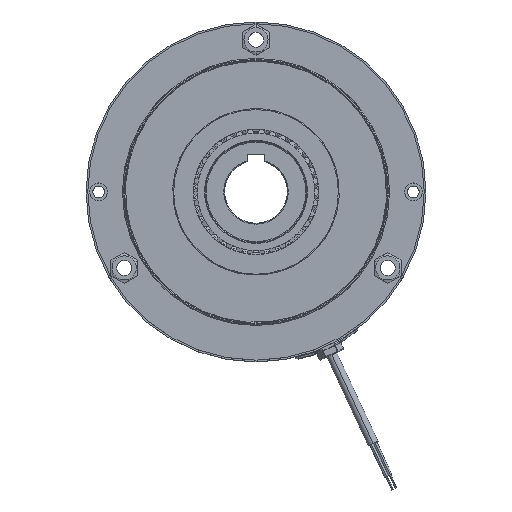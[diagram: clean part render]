
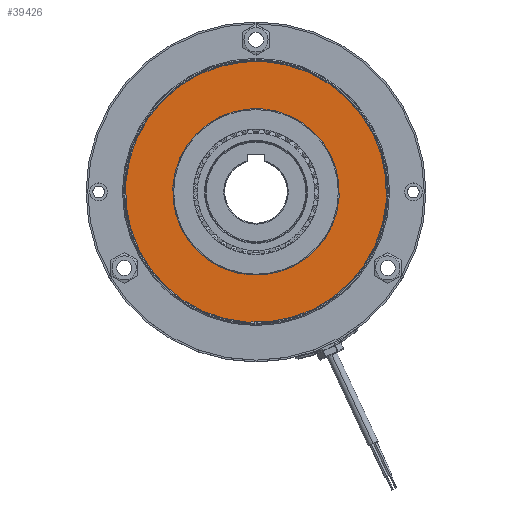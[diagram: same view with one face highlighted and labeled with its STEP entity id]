
A CAD part, top view. The second image highlights one B-rep face of the part: STEP entity #39426.
In plain terms, the highlighted planar face has unit normal (0, 0, 1).
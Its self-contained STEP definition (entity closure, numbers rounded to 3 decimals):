
#1051 = CARTESIAN_POINT ( 'NONE',  ( -31.916, 65.598, 2. ) ) ;
#2151 = AXIS2_PLACEMENT_3D ( 'NONE', #24613, #4973, #18994 ) ;
#2243 = EDGE_LOOP ( 'NONE', ( #38565, #21753 ) ) ;
#2482 = AXIS2_PLACEMENT_3D ( 'NONE', #37117, #20941, #34085 ) ;
#3139 = CARTESIAN_POINT ( 'NONE',  ( 0., 0., 2. ) ) ;
#3222 = VERTEX_POINT ( 'NONE', #38420 ) ;
#3873 = CIRCLE ( 'NONE', #2482, 46.55 ) ;
#4160 = CIRCLE ( 'NONE', #20717, 72.95 ) ;
#4973 = DIRECTION ( 'NONE',  ( 0., 0., -1. ) ) ;
#5610 = FACE_BOUND ( 'NONE', #39488, .T. ) ;
#6307 = AXIS2_PLACEMENT_3D ( 'NONE', #28653, #12193, #8972 ) ;
#8258 = CARTESIAN_POINT ( 'NONE',  ( 0., 0., 2. ) ) ;
#8972 = DIRECTION ( 'NONE',  ( 1., 0., 0. ) ) ;
#9652 = CARTESIAN_POINT ( 'NONE',  ( -20.366, 41.858, 2. ) ) ;
#11383 = CIRCLE ( 'NONE', #32749, 46.55 ) ;
#12193 = DIRECTION ( 'NONE',  ( 0., 0., 1. ) ) ;
#17789 = EDGE_CURVE ( 'NONE', #35445, #32709, #4160, .T. ) ;
#18187 = DIRECTION ( 'NONE',  ( 0., 0., 1. ) ) ;
#18348 = FACE_OUTER_BOUND ( 'NONE', #2243, .T. ) ;
#18994 = DIRECTION ( 'NONE',  ( -1., 0., 0. ) ) ;
#19671 = EDGE_CURVE ( 'NONE', #32709, #35445, #26344, .T. ) ;
#20717 = AXIS2_PLACEMENT_3D ( 'NONE', #8258, #18187, #23674 ) ;
#20941 = DIRECTION ( 'NONE',  ( 0., 0., 1. ) ) ;
#21753 = ORIENTED_EDGE ( 'NONE', *, *, #17789, .T. ) ;
#23674 = DIRECTION ( 'NONE',  ( 1., 0., 0. ) ) ;
#24613 = CARTESIAN_POINT ( 'NONE',  ( 0., 72.95, 2. ) ) ;
#26344 = CIRCLE ( 'NONE', #6307, 72.95 ) ;
#27799 = VERTEX_POINT ( 'NONE', #9652 ) ;
#28611 = EDGE_CURVE ( 'NONE', #27799, #3222, #3873, .T. ) ;
#28653 = CARTESIAN_POINT ( 'NONE',  ( 0., 0., 2. ) ) ;
#32136 = EDGE_CURVE ( 'NONE', #3222, #27799, #11383, .T. ) ;
#32303 = DIRECTION ( 'NONE',  ( 0., 0., 1. ) ) ;
#32709 = VERTEX_POINT ( 'NONE', #39707 ) ;
#32749 = AXIS2_PLACEMENT_3D ( 'NONE', #3139, #32303, #42482 ) ;
#34085 = DIRECTION ( 'NONE',  ( 1., 0., 0. ) ) ;
#34520 = PLANE ( 'NONE',  #2151 ) ;
#35401 = ORIENTED_EDGE ( 'NONE', *, *, #32136, .F. ) ;
#35445 = VERTEX_POINT ( 'NONE', #1051 ) ;
#37117 = CARTESIAN_POINT ( 'NONE',  ( 0., 0., 2. ) ) ;
#38420 = CARTESIAN_POINT ( 'NONE',  ( 20.366, -41.858, 2. ) ) ;
#38565 = ORIENTED_EDGE ( 'NONE', *, *, #19671, .T. ) ;
#39426 = ADVANCED_FACE ( 'NONE', ( #5610, #18348 ), #34520, .F. ) ;
#39488 = EDGE_LOOP ( 'NONE', ( #35401, #40150 ) ) ;
#39707 = CARTESIAN_POINT ( 'NONE',  ( 31.916, -65.598, 2. ) ) ;
#40150 = ORIENTED_EDGE ( 'NONE', *, *, #28611, .F. ) ;
#42482 = DIRECTION ( 'NONE',  ( 1., 0., 0. ) ) ;
